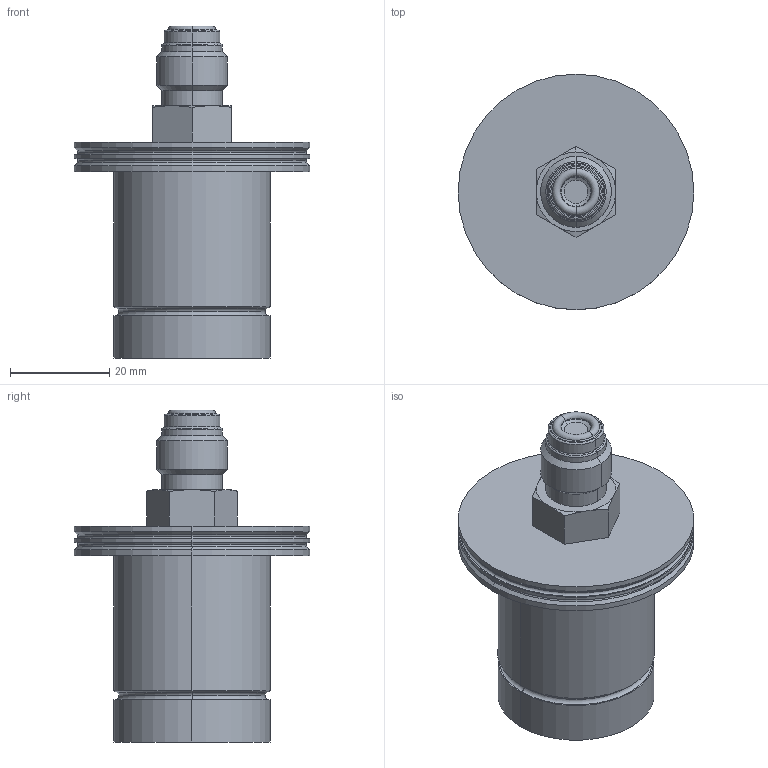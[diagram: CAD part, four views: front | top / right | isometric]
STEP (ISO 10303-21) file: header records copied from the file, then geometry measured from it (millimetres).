
FILE_DESCRIPTION (( 'STEP AP214' ), '1' );
FILE_NAME ('PV48W VCR DSUB.STEP', '2008-01-14T13:22:54', ( 'Authorized User' ), ( 'Precision Sensors' ), 'SwSTEP 2.0', 'SolidWorks 2006303', '' );
FILE_SCHEMA (( 'AUTOMOTIVE_DESIGN' ));
Length unit declared in the file: inch
Products named in the file (1): PV48W VCR DSUB
Bounding box: 47.5 x 47.5 x 66.93 mm (x, y, z)
Volume: 42268 mm3; surface area: 10107.7 mm2
Topology: 1 solids, 1 shells, 176 faces, 407 edges, 241 vertices
Faces by surface type: cylinder 65, plane 35, cone 32, torus 26, sphere 18
Entity records: 4756 total; most frequent: DIRECTION 935, CARTESIAN_POINT 803, ORIENTED_EDGE 734, AXIS2_PLACEMENT_3D 403, EDGE_CURVE 367, CIRCLE 226, VERTEX_POINT 223, EDGE_LOOP 206
